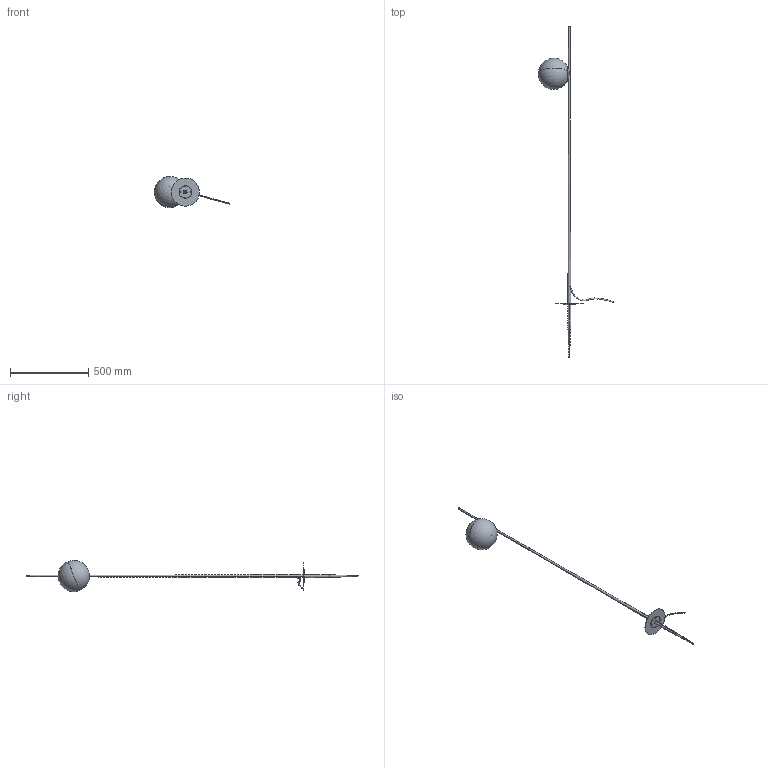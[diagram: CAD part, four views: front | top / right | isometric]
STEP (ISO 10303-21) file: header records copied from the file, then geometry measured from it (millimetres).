
FILE_DESCRIPTION (( 'STEP AP203' ), '1' );
FILE_NAME ('HP302FBEXT.step', '2023-02-16T13:59:17', ( '' ), ( '' ), 'SwSTEP 2.0', 'SolidWorks 2019', '' );
FILE_SCHEMA (( 'CONFIG_CONTROL_DESIGN' ));
Length unit declared in the file: millimetre
Products named in the file (11): PR23MU02-E; 10CP211PZ  Picchetto per piantana; PR23MU02-D2; PR23MU02-F; PR23MU02-G; HP302FBEXT; PR23MU02-L5; Copia di cavo^HP302FBEXT; 10CP211TZ  Disco picchetto_svasa in saldatura; PR23MU02-Attacco a terra; 10CP211PZ  picchetto per piantana
Assembly tree (10 placements, depth 3):
  HP302FBEXT
    PR23MU02-Attacco a terra
    10CP211PZ  Picchetto per piantana
      10CP211TZ  Disco picchetto_svasa in saldatura
      10CP211PZ  picchetto per piantana
    PR23MU02-L5
    PR23MU02-D2
    PR23MU02-E
    PR23MU02-F
    PR23MU02-G
    Copia di cavo^HP302FBEXT
Bounding box: 483.18 x 2122.9 x 199.09 mm (x, y, z)
Volume: 502393.5 mm3; surface area: 495728.9 mm2
Topology: 9 solids, 9 shells, 127 faces, 334 edges, 215 vertices
Faces by surface type: cylinder 56, plane 27, cone 22, sphere 8, torus 8, bspline 6
Entity records: 7985 total; most frequent: CARTESIAN_POINT 3851, ORIENTED_EDGE 636, DIRECTION 617, EDGE_CURVE 318, AXIS2_PLACEMENT_3D 257, VERTEX_POINT 207, EDGE_LOOP 153, FACE_OUTER_BOUND 127
